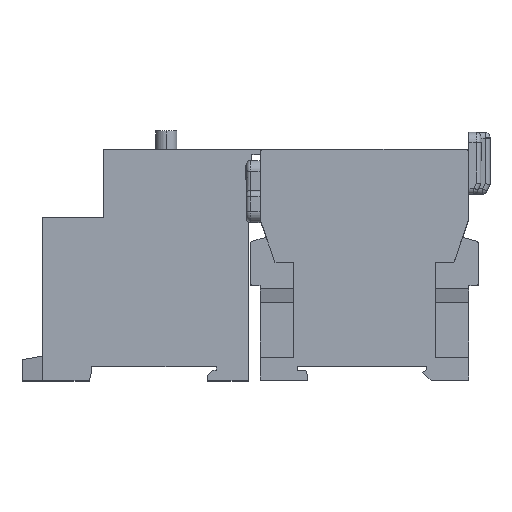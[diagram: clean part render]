
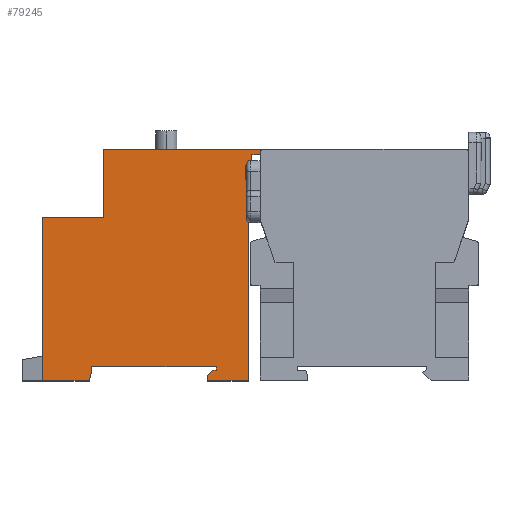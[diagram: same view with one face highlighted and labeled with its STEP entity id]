
A CAD part, top view. The second image highlights one B-rep face of the part: STEP entity #79245.
In plain terms, the highlighted planar face has unit normal (0, 0, 1) as drawn and (1, 0, 0) by its records, which use the part's own axes.
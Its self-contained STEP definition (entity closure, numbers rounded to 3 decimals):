
#93 = CARTESIAN_POINT ( 'NONE',  ( -7.154, 134.264, -28.862 ) ) ;
#133 = DIRECTION ( 'NONE',  ( 0., 0., -1. ) ) ;
#283 = LINE ( 'NONE', #1690, #47801 ) ;
#1102 = EDGE_CURVE ( 'NONE', #59936, #19549, #56743, .T. ) ;
#1392 = LINE ( 'NONE', #2381, #48899 ) ;
#1690 = CARTESIAN_POINT ( 'NONE',  ( -7.154, 132.764, -28.862 ) ) ;
#2381 = CARTESIAN_POINT ( 'NONE',  ( -7.154, 131.264, -26.362 ) ) ;
#2394 = ORIENTED_EDGE ( 'NONE', *, *, #73085, .F. ) ;
#2850 = ORIENTED_EDGE ( 'NONE', *, *, #14909, .F. ) ;
#2859 = CARTESIAN_POINT ( 'NONE',  ( -7.154, 103.94, -17.312 ) ) ;
#4683 = EDGE_CURVE ( 'NONE', #26638, #60722, #75261, .T. ) ;
#4762 = VECTOR ( 'NONE', #76742, 1000. ) ;
#6885 = LINE ( 'NONE', #51304, #23400 ) ;
#7201 = VECTOR ( 'NONE', #74414, 1000. ) ;
#7510 = PLANE ( 'NONE',  #62002 ) ;
#7784 = DIRECTION ( 'NONE',  ( 0., -1., 0. ) ) ;
#7841 = CARTESIAN_POINT ( 'NONE',  ( -7.154, 68.864, -13.812 ) ) ;
#7922 = DIRECTION ( 'NONE',  ( 0., -0.707, 0.707 ) ) ;
#8588 = CARTESIAN_POINT ( 'NONE',  ( -7.154, 132.764, -28.862 ) ) ;
#11949 = EDGE_CURVE ( 'NONE', #17518, #29081, #51143, .T. ) ;
#13639 = VECTOR ( 'NONE', #77376, 1000. ) ;
#13703 = CARTESIAN_POINT ( 'NONE',  ( -7.154, 134.264, -28.862 ) ) ;
#13723 = EDGE_CURVE ( 'NONE', #77502, #26638, #21834, .T. ) ;
#14246 = CARTESIAN_POINT ( 'NONE',  ( -7.154, 68.864, -58.212 ) ) ;
#14452 = ORIENTED_EDGE ( 'NONE', *, *, #1102, .F. ) ;
#14909 = EDGE_CURVE ( 'NONE', #28267, #47747, #69241, .T. ) ;
#15061 = DIRECTION ( 'NONE',  ( 0., 1., 0. ) ) ;
#15362 = ORIENTED_EDGE ( 'NONE', *, *, #48290, .F. ) ;
#15399 = CARTESIAN_POINT ( 'NONE',  ( -7.154, 134.264, -45.442 ) ) ;
#15595 = LINE ( 'NONE', #71159, #13639 ) ;
#15877 = VERTEX_POINT ( 'NONE', #42493 ) ;
#17518 = VERTEX_POINT ( 'NONE', #13703 ) ;
#18743 = ORIENTED_EDGE ( 'NONE', *, *, #31152, .F. ) ;
#19283 = LINE ( 'NONE', #33288, #4762 ) ;
#19549 = VERTEX_POINT ( 'NONE', #68668 ) ;
#20490 = LINE ( 'NONE', #75295, #22446 ) ;
#21309 = ORIENTED_EDGE ( 'NONE', *, *, #55615, .F. ) ;
#21834 = LINE ( 'NONE', #68623, #38273 ) ;
#22053 = CARTESIAN_POINT ( 'NONE',  ( -7.154, 134.264, -75.512 ) ) ;
#22446 = VECTOR ( 'NONE', #38042, 1000. ) ;
#22670 = ORIENTED_EDGE ( 'NONE', *, *, #40945, .F. ) ;
#23219 = VERTEX_POINT ( 'NONE', #73479 ) ;
#23354 = CARTESIAN_POINT ( 'NONE',  ( -7.154, 131.864, -61.662 ) ) ;
#23400 = VECTOR ( 'NONE', #76039, 1000. ) ;
#24765 = CARTESIAN_POINT ( 'NONE',  ( -7.154, 70.264, -16.321 ) ) ;
#25080 = LINE ( 'NONE', #15399, #72687 ) ;
#25185 = CARTESIAN_POINT ( 'NONE',  ( -7.154, 134.264, -62.305 ) ) ;
#26038 = VERTEX_POINT ( 'NONE', #65754 ) ;
#26302 = DIRECTION ( 'NONE',  ( 0., 0., -1. ) ) ;
#26638 = VERTEX_POINT ( 'NONE', #7841 ) ;
#26653 = DIRECTION ( 'NONE',  ( 0., 0., 1. ) ) ;
#26765 = CARTESIAN_POINT ( 'NONE',  ( -7.154, 130.264, -61.662 ) ) ;
#26797 = VECTOR ( 'NONE', #26653, 1000. ) ;
#27103 = VECTOR ( 'NONE', #65561, 1000. ) ;
#28267 = VERTEX_POINT ( 'NONE', #74540 ) ;
#28393 = CARTESIAN_POINT ( 'NONE',  ( -7.154, 103.94, -75.512 ) ) ;
#28402 = ORIENTED_EDGE ( 'NONE', *, *, #37033, .F. ) ;
#29054 = LINE ( 'NONE', #28393, #27103 ) ;
#29081 = VERTEX_POINT ( 'NONE', #8588 ) ;
#31152 = EDGE_CURVE ( 'NONE', #60722, #59936, #6885, .T. ) ;
#32674 = VECTOR ( 'NONE', #74697, 1000. ) ;
#32776 = ORIENTED_EDGE ( 'NONE', *, *, #13723, .F. ) ;
#33086 = CARTESIAN_POINT ( 'NONE',  ( -7.154, 130.264, -45.442 ) ) ;
#33165 = LINE ( 'NONE', #2859, #78851 ) ;
#33288 = CARTESIAN_POINT ( 'NONE',  ( -7.154, 130.264, -61.662 ) ) ;
#34252 = ORIENTED_EDGE ( 'NONE', *, *, #34835, .F. ) ;
#34835 = EDGE_CURVE ( 'NONE', #19549, #26038, #68625, .T. ) ;
#35512 = VERTEX_POINT ( 'NONE', #65609 ) ;
#35616 = FACE_OUTER_BOUND ( 'NONE', #58290, .T. ) ;
#37033 = EDGE_CURVE ( 'NONE', #52728, #15877, #1392, .T. ) ;
#37215 = CARTESIAN_POINT ( 'NONE',  ( -7.154, 74.164, -16.662 ) ) ;
#38042 = DIRECTION ( 'NONE',  ( 0., 0., 1. ) ) ;
#38273 = VECTOR ( 'NONE', #51379, 1000. ) ;
#38907 = VERTEX_POINT ( 'NONE', #41676 ) ;
#39172 = ORIENTED_EDGE ( 'NONE', *, *, #66111, .F. ) ;
#39459 = VECTOR ( 'NONE', #133, 1000. ) ;
#39465 = DIRECTION ( 'NONE',  ( 0., -1., 0. ) ) ;
#39894 = EDGE_CURVE ( 'NONE', #35512, #77502, #15595, .T. ) ;
#40176 = VECTOR ( 'NONE', #26302, 1000. ) ;
#40188 = CARTESIAN_POINT ( 'NONE',  ( -7.154, 70.264, -13.812 ) ) ;
#40945 = EDGE_CURVE ( 'NONE', #70360, #28267, #19283, .T. ) ;
#41301 = VERTEX_POINT ( 'NONE', #43497 ) ;
#41676 = CARTESIAN_POINT ( 'NONE',  ( -7.154, 88.164, -75.512 ) ) ;
#42493 = CARTESIAN_POINT ( 'NONE',  ( -7.154, 130.264, -26.362 ) ) ;
#42951 = ORIENTED_EDGE ( 'NONE', *, *, #49613, .F. ) ;
#43246 = LINE ( 'NONE', #51339, #26797 ) ;
#43355 = VECTOR ( 'NONE', #58101, 1000. ) ;
#43497 = CARTESIAN_POINT ( 'NONE',  ( -7.154, 134.264, -17.312 ) ) ;
#43944 = ORIENTED_EDGE ( 'NONE', *, *, #39894, .F. ) ;
#44879 = VERTEX_POINT ( 'NONE', #22053 ) ;
#44893 = DIRECTION ( 'NONE',  ( -1., 0., 0. ) ) ;
#47747 = VERTEX_POINT ( 'NONE', #25185 ) ;
#47801 = VECTOR ( 'NONE', #7922, 1000. ) ;
#48290 = EDGE_CURVE ( 'NONE', #23219, #52728, #20490, .T. ) ;
#48899 = VECTOR ( 'NONE', #39465, 1000. ) ;
#49613 = EDGE_CURVE ( 'NONE', #44879, #38907, #29054, .T. ) ;
#50262 = EDGE_CURVE ( 'NONE', #47747, #44879, #25080, .T. ) ;
#50995 = CARTESIAN_POINT ( 'NONE',  ( -7.154, 134.264, -45.442 ) ) ;
#51143 = LINE ( 'NONE', #93, #32674 ) ;
#51304 = CARTESIAN_POINT ( 'NONE',  ( -7.154, 70.264, -45.442 ) ) ;
#51339 = CARTESIAN_POINT ( 'NONE',  ( -7.154, 88.164, -45.442 ) ) ;
#51379 = DIRECTION ( 'NONE',  ( 0., 0., 1. ) ) ;
#52728 = VERTEX_POINT ( 'NONE', #65639 ) ;
#54543 = DIRECTION ( 'NONE',  ( 0., 0.966, -0.259 ) ) ;
#54689 = VECTOR ( 'NONE', #54543, 1000. ) ;
#54745 = DIRECTION ( 'NONE',  ( 0., 1., 0. ) ) ;
#55615 = EDGE_CURVE ( 'NONE', #26038, #41301, #33165, .T. ) ;
#55624 = ORIENTED_EDGE ( 'NONE', *, *, #4683, .F. ) ;
#56743 = LINE ( 'NONE', #24765, #7201 ) ;
#58101 = DIRECTION ( 'NONE',  ( 0., 0., -1. ) ) ;
#58290 = EDGE_LOOP ( 'NONE', ( #78597, #2850, #22670, #69310, #28402, #15362, #39172, #72779, #2394, #21309, #34252, #14452, #18743, #55624, #32776, #43944, #75131, #42951 ) ) ;
#58702 = LINE ( 'NONE', #50995, #40176 ) ;
#58759 = VECTOR ( 'NONE', #54745, 1000. ) ;
#58778 = DIRECTION ( 'NONE',  ( 0., 0., -1. ) ) ;
#58856 = CARTESIAN_POINT ( 'NONE',  ( -7.154, 68.864, -13.812 ) ) ;
#59936 = VERTEX_POINT ( 'NONE', #70559 ) ;
#60722 = VERTEX_POINT ( 'NONE', #40188 ) ;
#62002 = AXIS2_PLACEMENT_3D ( 'NONE', #69640, #44893, #7784 ) ;
#62572 = EDGE_CURVE ( 'NONE', #38907, #35512, #43246, .T. ) ;
#65561 = DIRECTION ( 'NONE',  ( 0., -1., 0. ) ) ;
#65609 = CARTESIAN_POINT ( 'NONE',  ( -7.154, 88.164, -58.212 ) ) ;
#65639 = CARTESIAN_POINT ( 'NONE',  ( -7.154, 131.264, -26.362 ) ) ;
#65754 = CARTESIAN_POINT ( 'NONE',  ( -7.154, 74.164, -17.312 ) ) ;
#66111 = EDGE_CURVE ( 'NONE', #29081, #23219, #283, .T. ) ;
#68623 = CARTESIAN_POINT ( 'NONE',  ( -7.154, 68.864, -45.442 ) ) ;
#68625 = LINE ( 'NONE', #37215, #39459 ) ;
#68668 = CARTESIAN_POINT ( 'NONE',  ( -7.154, 74.164, -16.662 ) ) ;
#69241 = LINE ( 'NONE', #23354, #54689 ) ;
#69310 = ORIENTED_EDGE ( 'NONE', *, *, #71022, .F. ) ;
#69640 = CARTESIAN_POINT ( 'NONE',  ( -7.154, 103.94, -45.442 ) ) ;
#70360 = VERTEX_POINT ( 'NONE', #26765 ) ;
#70559 = CARTESIAN_POINT ( 'NONE',  ( -7.154, 70.264, -16.321 ) ) ;
#71022 = EDGE_CURVE ( 'NONE', #15877, #70360, #74498, .T. ) ;
#71159 = CARTESIAN_POINT ( 'NONE',  ( -7.154, 103.94, -58.212 ) ) ;
#72687 = VECTOR ( 'NONE', #58778, 1000. ) ;
#72779 = ORIENTED_EDGE ( 'NONE', *, *, #11949, .F. ) ;
#73085 = EDGE_CURVE ( 'NONE', #41301, #17518, #58702, .T. ) ;
#73479 = CARTESIAN_POINT ( 'NONE',  ( -7.154, 131.264, -27.362 ) ) ;
#74414 = DIRECTION ( 'NONE',  ( 0., 0.996, -0.087 ) ) ;
#74498 = LINE ( 'NONE', #33086, #43355 ) ;
#74540 = CARTESIAN_POINT ( 'NONE',  ( -7.154, 131.864, -61.662 ) ) ;
#74697 = DIRECTION ( 'NONE',  ( 0., -1., 0. ) ) ;
#75131 = ORIENTED_EDGE ( 'NONE', *, *, #62572, .F. ) ;
#75261 = LINE ( 'NONE', #58856, #58759 ) ;
#75295 = CARTESIAN_POINT ( 'NONE',  ( -7.154, 131.264, -27.362 ) ) ;
#76039 = DIRECTION ( 'NONE',  ( 0., 0., -1. ) ) ;
#76742 = DIRECTION ( 'NONE',  ( 0., 1., 0. ) ) ;
#77376 = DIRECTION ( 'NONE',  ( 0., -1., 0. ) ) ;
#77502 = VERTEX_POINT ( 'NONE', #14246 ) ;
#78597 = ORIENTED_EDGE ( 'NONE', *, *, #50262, .F. ) ;
#78851 = VECTOR ( 'NONE', #15061, 1000. ) ;
#79245 = ADVANCED_FACE ( 'NONE', ( #35616 ), #7510, .F. ) ;
